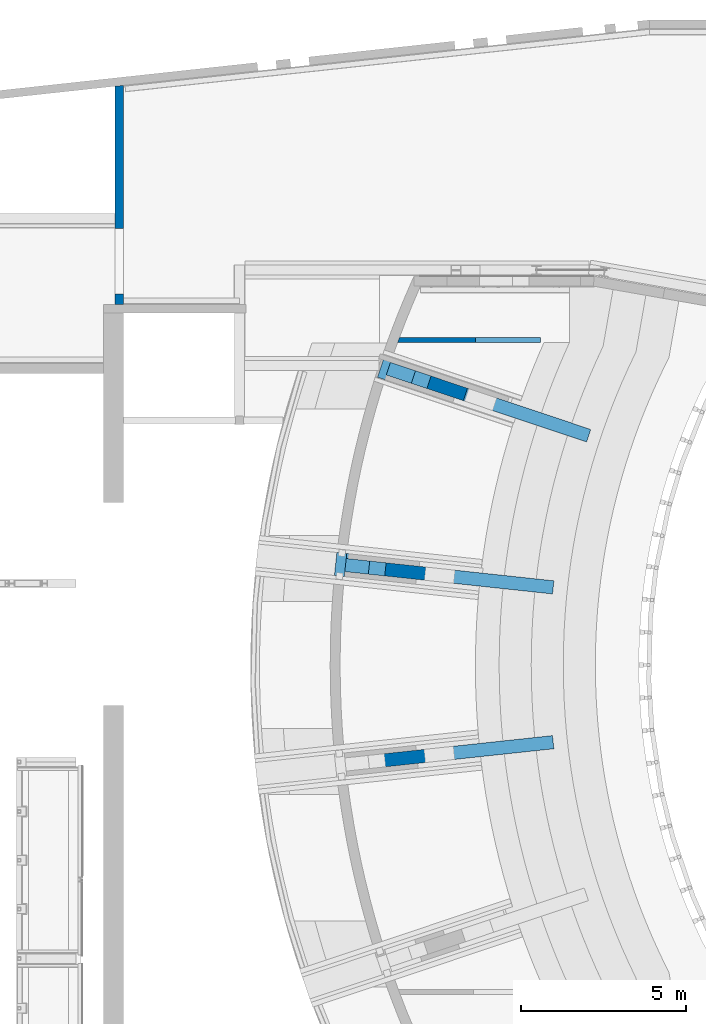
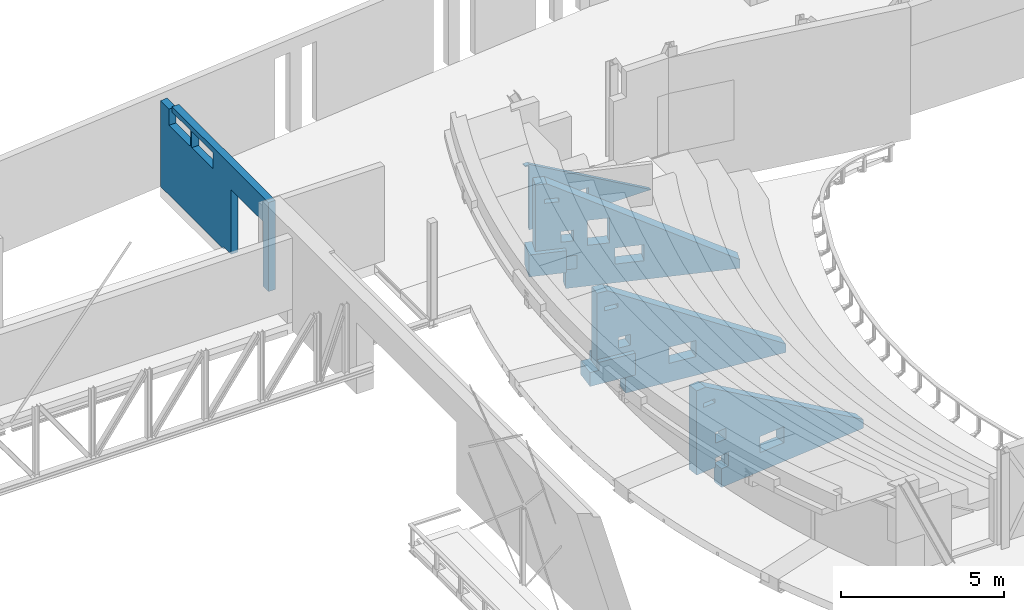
# One storey, part 67 of 68: 7 walls.
"""IFC2X3 building model written with IfcOpenShell, lengths in millimetres."""

from ifc_helpers import new_model, entity, si_unit, converted_unit, derived_unit, direction, frame, origin, place, context, subcontext, project, spatial, faceted_brep, material, layer, layer_set, type_object, element, save


model = new_model("IFC2X3")

# Units and contexts
model_context = context("Model", 3, precision=0.01, world=origin(), true_north=direction((6.12303176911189e-17, 1.0)))
body_context = subcontext(model_context, "Body", "Model", "MODEL_VIEW")
ifc_project = project(units=[si_unit("LENGTHUNIT", "METRE", prefix="MILLI"), si_unit("AREAUNIT", "SQUARE_METRE", prefix="MILLI"), si_unit("VOLUMEUNIT", "CUBIC_METRE"), converted_unit("PLANEANGLEUNIT", "DEGREE", entity("IfcRatioMeasure", 0.0174532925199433), si_unit("PLANEANGLEUNIT", "RADIAN"), dimensions=[0, 0, 0, 0, 0, 0, 0]), si_unit("MASSUNIT", "GRAM", prefix="KILO"), derived_unit("MASSDENSITYUNIT", [(si_unit("MASSUNIT", "GRAM", prefix="KILO"), 1), (si_unit("LENGTHUNIT", "METRE"), -3)]), derived_unit("MOMENTOFINERTIAUNIT", [(si_unit("LENGTHUNIT", "METRE"), 4)]), si_unit("TIMEUNIT", "SECOND"), si_unit("FREQUENCYUNIT", "HERTZ"), si_unit("THERMODYNAMICTEMPERATUREUNIT", "DEGREE_CELSIUS"), derived_unit("THERMALTRANSMITTANCEUNIT", [(si_unit("MASSUNIT", "GRAM", prefix="KILO"), 1), (si_unit("THERMODYNAMICTEMPERATUREUNIT", "KELVIN"), -1), (si_unit("TIMEUNIT", "SECOND"), -3)]), derived_unit("VOLUMETRICFLOWRATEUNIT", [(si_unit("LENGTHUNIT", "METRE"), 3), (si_unit("TIMEUNIT", "SECOND"), -1)]), si_unit("ELECTRICCURRENTUNIT", "AMPERE"), si_unit("ELECTRICVOLTAGEUNIT", "VOLT"), si_unit("POWERUNIT", "WATT"), si_unit("FORCEUNIT", "NEWTON", prefix="KILO"), si_unit("ILLUMINANCEUNIT", "LUX"), si_unit("LUMINOUSFLUXUNIT", "LUMEN"), si_unit("LUMINOUSINTENSITYUNIT", "CANDELA"), derived_unit("USERDEFINED", [(si_unit("MASSUNIT", "GRAM", prefix="KILO"), -1), (si_unit("LENGTHUNIT", "METRE"), -2), (si_unit("TIMEUNIT", "SECOND"), 3), (si_unit("LUMINOUSFLUXUNIT", "LUMEN"), 1)]), derived_unit("LINEARVELOCITYUNIT", [(si_unit("LENGTHUNIT", "METRE"), 1), (si_unit("TIMEUNIT", "SECOND"), -1)]), si_unit("PRESSUREUNIT", "PASCAL"), derived_unit("USERDEFINED", [(si_unit("LENGTHUNIT", "METRE"), -2), (si_unit("MASSUNIT", "GRAM", prefix="KILO"), 1), (si_unit("TIMEUNIT", "SECOND"), -2)]), derived_unit("LINEARFORCEUNIT", [(si_unit("MASSUNIT", "GRAM", prefix="KILO"), 1), (si_unit("LENGTHUNIT", "METRE"), 1), (si_unit("TIMEUNIT", "SECOND"), -2), (si_unit("LENGTHUNIT", "METRE"), -1)]), derived_unit("PLANARFORCEUNIT", [(si_unit("MASSUNIT", "GRAM", prefix="KILO"), 1), (si_unit("LENGTHUNIT", "METRE"), 1), (si_unit("TIMEUNIT", "SECOND"), -2), (si_unit("LENGTHUNIT", "METRE"), -2)])], contexts=[model_context])

# Site, building, storey
site_placement = place(None, origin())
site = spatial("IfcSite", under=ifc_project, at=site_placement, Name="Theater aan de Parade", CompositionType="ELEMENT")
building_placement = place(site_placement, origin())
building = spatial("IfcBuilding", under=site, at=building_placement, Name="Theater aan de Parade", CompositionType="ELEMENT")
storey_placement = place(building_placement, frame((0.0, 0.0, 8750.0)))
storey = spatial("IfcBuildingStorey", under=building, at=storey_placement, Name="02 tweede verdieping", CompositionType="ELEMENT", Elevation=8750.0)

# Walls
ifc_material_1 = material(Name="00_PBT_MAT_beton t.p.g.")
ifc_layer_1 = layer(ifc_material_1, 400.0)
ifc_layer_set_1 = layer_set([ifc_layer_1], Name="Basic Wall:28_PBT_WA_beton t.p.g._d=400_bestaand")
wall_type_1 = type_object("IfcWallType", Name="Basic Wall:28_PBT_WA_beton t.p.g._d=400_bestaand", PredefinedType="STANDARD", material=ifc_layer_set_1)
wall_1_placement = place(storey_placement, frame((45470.1252305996, 41412.4561041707, -1600.0), z_axis=(0.0, 0.0, 1.0), x_axis=(0.948323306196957, -0.317305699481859, 0.0)))
element("IfcWall", 1, at=wall_1_placement, inside=storey, type_object=wall_type_1, Name="Basic Wall:28_PBT_WA_beton t.p.g._d=400_bestaand", ObjectType="Basic Wall:28_PBT_WA_beton t.p.g._d=400_bestaand", context=body_context, shape_type="Brep", body=[
    faceted_brep([(0.0180386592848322, -200.0, 1520.0), (0.0180386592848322, -200.0, 850.0), (795.798207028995, -200.0, 1200.0), (795.798207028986, -200.0, 1750.0), (795.798207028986, -200.0, 2150.0), (291.318215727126, -200.0, 3275.0), (0.0180386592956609, -200.0, 4000.0), (795.798207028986, -200.0, 850.0), (945.798207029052, -200.0, 1200.0), (1195.79820702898, -200.0, 1750.0), (1295.79820702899, -200.0, 1200.0), (1622.48266673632, -200.0, 1520.0), (1295.79820702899, -200.0, 700.0), (2495.798207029, -200.0, 700.0), (945.79820702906, -200.0, 0.0), (945.79820702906, -200.0, 700.0), (3395.79820702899, -200.0, 700.0), (6389.68846659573, -200.0, 0.0), (6389.68846659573, -200.0, 325.979381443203), (3395.79820702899, -200.0, 1300.0), (2322.48266673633, -200.0, 2450.0), (360.967538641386, -200.0, 4000.0), (291.318215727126, -200.0, 3425.0), (741.318215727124, -200.0, 3425.0), (1622.48266673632, -200.0, 2450.0), (741.318215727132, -200.0, 3275.0), (1195.79820702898, -200.0, 2150.0), (2322.48266673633, -200.0, 1520.0), (2495.798207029, -200.0, 1300.0), (6389.68846659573, 200.0, 0.0), (3395.79820702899, 200.0, 700.0), (6389.68846659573, 200.0, 325.979381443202), (945.798207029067, 200.0, 0.0), (2495.79820702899, 200.0, 700.0), (1295.79820702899, 200.0, 700.0), (945.798207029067, 200.0, 700.0), (1622.48266673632, 200.0, 1520.0), (1295.79820702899, 200.0, 1200.0), (1195.79820702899, 200.0, 1750.0), (945.798207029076, 200.0, 1200.0), (795.798207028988, 200.0, 1750.0), (795.798207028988, 200.0, 1200.0), (0.0, 200.0, 1520.0), (0.0, 200.0, 850.0), (795.798207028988, 200.0, 850.0), (795.798207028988, 200.0, 2150.0), (291.318215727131, 200.0, 3275.0), (0.0, 200.0, 4000.0), (291.318215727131, 200.0, 3425.0), (360.967538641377, 200.0, 4000.0), (2322.48266673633, 200.0, 2450.0), (741.318215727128, 200.0, 3425.0), (3395.79820702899, 200.0, 1300.0), (2322.48266673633, 200.0, 1520.0), (1622.48266673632, 200.0, 2450.0), (1195.79820702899, 200.0, 2150.0), (741.318215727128, 200.0, 3275.0), (2495.79820702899, 200.0, 1300.0), (-0.698954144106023, -3.19274710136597e-05, 850.0), (-0.698954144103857, -3.19274796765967e-05, 4000.0), (-0.692440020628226, -17.9528807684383, 2425.0)], [[[0, 1, 2]], [[2, 3, 0]], [[0, 3, 4]], [[5, 0, 4]], [[5, 6, 0]], [[2, 1, 7]], [[8, 3, 2]], [[9, 3, 8]], [[8, 10, 9]], [[11, 9, 10]], [[11, 10, 12]], [[11, 12, 13]], [[13, 12, 14]], [[15, 14, 12]], [[13, 14, 16]], [[17, 16, 14]], [[17, 18, 16]], [[19, 16, 18]], [[19, 18, 20]], [[18, 21, 20]], [[6, 22, 21]], [[21, 23, 20]], [[21, 22, 23]], [[24, 20, 23]], [[23, 25, 24]], [[26, 25, 4]], [[25, 5, 4]], [[26, 24, 25]], [[24, 26, 11]], [[20, 27, 19]], [[28, 19, 27]], [[28, 27, 11]], [[9, 11, 26]], [[11, 13, 28]], [[6, 5, 22]], [[29, 30, 31]], [[32, 30, 29]], [[33, 30, 32]], [[32, 34, 33]], [[32, 35, 34]], [[36, 33, 34]], [[37, 36, 34]], [[38, 36, 37]], [[37, 39, 38]], [[39, 40, 38]], [[39, 41, 40]], [[40, 41, 42]], [[42, 41, 43]], [[44, 43, 41]], [[40, 42, 45]], [[42, 46, 45]], [[42, 47, 46]], [[48, 46, 47]], [[47, 49, 48]], [[31, 50, 49]], [[48, 49, 51]], [[51, 49, 50]], [[52, 50, 31]], [[52, 53, 50]], [[50, 54, 51]], [[55, 54, 36]], [[54, 55, 56]], [[54, 56, 51]], [[56, 45, 46]], [[55, 45, 56]], [[36, 38, 55]], [[33, 36, 57]], [[57, 36, 53]], [[52, 57, 53]], [[52, 31, 30]], [[17, 14, 32, 29]], [[18, 17, 29, 31]], [[21, 18, 31, 49]], [[3, 9, 38, 40]], [[4, 3, 40, 45]], [[2, 7, 44, 41]], [[26, 4, 45, 55]], [[9, 26, 55, 38]], [[15, 12, 34, 35]], [[13, 16, 30, 33]], [[8, 2, 41, 39, 37, 10]], [[12, 10, 37, 34]], [[28, 13, 33, 57]], [[19, 28, 57, 52]], [[16, 19, 52, 30]], [[7, 1, 58, 43, 44]], [[59, 60, 6]], [[60, 59, 47]], [[58, 1, 0]], [[0, 60, 58]], [[58, 60, 42]], [[6, 60, 0]], [[43, 58, 42]], [[60, 47, 42]], [[6, 21, 49, 47, 59]], [[32, 14, 15, 35]], [[25, 23, 51, 56]], [[5, 25, 56, 46]], [[22, 5, 46, 48]], [[23, 22, 48, 51]], [[27, 20, 50, 53]], [[11, 27, 53, 36]], [[24, 11, 36, 54]], [[20, 24, 54, 50]]]),
])
wall_2_placement = place(storey_placement, frame((44172.8731387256, 35472.8636907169, -1600.0), z_axis=(0.0, 0.0, 1.0), x_axis=(0.994276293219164, -0.106839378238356, 0.0)))
element("IfcWall", 2, at=wall_2_placement, inside=storey, type_object=wall_type_1, Name="Basic Wall:28_PBT_WA_beton t.p.g._d=400_bestaand", ObjectType="Basic Wall:28_PBT_WA_beton t.p.g._d=400_bestaand", context=body_context, shape_type="Brep", body=[
    faceted_brep([(0.0, -200.0, 1220.0), (0.0, -200.0, 850.0), (714.535756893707, -200.0, 1200.0), (714.535756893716, -200.0, 1750.0), (714.535756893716, -200.0, 2150.0), (250.61794045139, -200.0, 3275.0), (0.0, -200.0, 2532.80880524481), (714.535756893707, -200.0, 850.0), (1114.53575689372, -200.0, 1750.0), (1214.53575689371, -200.0, 1200.0), (2414.53575689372, -200.0, 1300.0), (2414.53575689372, -200.0, 700.0), (1214.53575689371, -200.0, 700.0), (955.067265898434, -200.0, 0.0), (955.067265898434, -200.0, 700.0), (3314.53575689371, -200.0, 700.0), (6318.68326631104, -200.0, 0.0), (6318.68326631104, -200.0, 325.979381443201), (3314.53575689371, -200.0, 1300.0), (353.476265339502, -200.0, 4000.0), (700.617940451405, -200.0, 3425.0), (250.61794045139, -200.0, 3425.0), (0.0, -200.0, 4000.0), (1114.53575689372, -200.0, 2150.0), (700.617940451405, -200.0, 3275.0), (6318.68326631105, 200.0, 325.979381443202), (6318.68326631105, 200.0, 0.0), (3314.53575689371, 200.0, 700.0), (3314.53575689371, 200.0, 1300.0), (353.476265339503, 200.0, 4000.0), (955.067265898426, 200.0, 0.0), (2414.53575689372, 200.0, 700.0), (1214.53575689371, 200.0, 700.0), (955.067265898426, 200.0, 700.0), (1214.53575689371, 200.0, 1200.0), (2414.53575689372, 200.0, 1300.0), (1114.53575689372, 200.0, 1750.0), (714.535756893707, 200.0, 1200.0), (714.535756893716, 200.0, 1750.0), (0.0672658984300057, 200.0, 1220.0), (0.0672658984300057, 200.0, 850.0), (714.535756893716, 200.0, 850.0), (714.535756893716, 200.0, 2150.0), (250.617940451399, 200.0, 3275.0), (0.0672658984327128, 200.0, 2532.80880524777), (0.0672658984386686, 200.0, 4000.0), (250.617940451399, 200.0, 3425.0), (700.617940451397, 200.0, 3425.0), (1114.53575689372, 200.0, 2150.0), (700.617940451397, 200.0, 3275.0), (-0.674340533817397, 0.000119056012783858, 850.0), (-0.674340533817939, 0.000119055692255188, 2293.12853771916), (-0.674340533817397, 0.000119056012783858, 4000.0)], [[[0, 1, 2]], [[3, 0, 2]], [[3, 4, 0]], [[0, 4, 5]], [[5, 6, 0]], [[2, 1, 7]], [[3, 2, 8]], [[8, 2, 9]], [[10, 8, 9]], [[10, 9, 11]], [[9, 12, 11]], [[12, 13, 11]], [[13, 12, 14]], [[13, 15, 11]], [[16, 15, 13]], [[15, 16, 17]], [[18, 15, 17]], [[18, 17, 19]], [[19, 20, 18]], [[21, 20, 19]], [[22, 21, 19]], [[22, 5, 21]], [[5, 22, 6]], [[20, 23, 18]], [[23, 20, 24]], [[5, 4, 24]], [[24, 4, 23]], [[23, 8, 10]], [[10, 18, 23]], [[25, 26, 27]], [[27, 28, 25]], [[25, 28, 29]], [[30, 27, 26]], [[31, 27, 30]], [[30, 32, 31]], [[32, 30, 33]], [[31, 32, 34]], [[31, 34, 35]], [[36, 35, 34]], [[37, 36, 34]], [[37, 38, 36]], [[39, 38, 37]], [[40, 39, 37]], [[40, 37, 41]], [[39, 42, 38]], [[42, 39, 43]], [[43, 39, 44]], [[43, 44, 45]], [[43, 45, 46]], [[46, 45, 29]], [[47, 46, 29]], [[47, 29, 28]], [[28, 35, 48]], [[47, 28, 48]], [[36, 48, 35]], [[47, 48, 49]], [[49, 48, 42]], [[49, 42, 43]], [[16, 13, 30, 26]], [[17, 16, 26, 25]], [[19, 17, 25, 29]], [[3, 8, 36, 38]], [[4, 3, 38, 42]], [[2, 7, 41, 37]], [[23, 4, 42, 48]], [[8, 23, 48, 36]], [[14, 12, 32, 33]], [[11, 15, 27, 31]], [[9, 2, 37, 34]], [[12, 9, 34, 32]], [[10, 11, 31, 35]], [[18, 10, 35, 28]], [[15, 18, 28, 27]], [[7, 1, 50, 40, 41]], [[44, 39, 40, 50, 51, 52, 45]], [[6, 22, 52, 51, 50, 1, 0]], [[22, 19, 29, 45, 52]], [[33, 30, 13, 14]], [[5, 24, 49, 43]], [[21, 5, 43, 46]], [[20, 21, 46, 47]], [[24, 20, 47, 49]]]),
])
wall_3_placement = place(storey_placement, frame((44171.4500941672, 29440.1494627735, -1600.0), z_axis=(0.0, 0.0, 1.0), x_axis=(0.994276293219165, 0.106839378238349, 0.0)))
element("IfcWall", 3, at=wall_3_placement, inside=storey, type_object=wall_type_1, Name="Basic Wall:28_PBT_WA_beton t.p.g._d=400_bestaand", ObjectType="Basic Wall:28_PBT_WA_beton t.p.g._d=400_bestaand", context=body_context, shape_type="Brep", body=[
    faceted_brep([(0.0, -200.0, 1220.0), (0.0, -200.0, 850.0), (706.013188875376, -200.0, 1200.0), (706.013188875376, -200.0, 1750.0), (706.013188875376, -200.0, 2150.0), (249.548766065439, -200.0, 3275.0), (0.0, -200.0, 2532.80880519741), (706.013188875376, -200.0, 850.0), (1106.01318887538, -200.0, 1750.0), (1206.01318887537, -200.0, 1200.0), (2406.01318887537, -200.0, 1300.0), (2406.01318887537, -200.0, 700.0), (1206.01318887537, -200.0, 700.0), (945.848269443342, -200.0, 0.0), (945.848269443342, -200.0, 700.0), (3306.01318887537, -200.0, 700.0), (6318.70891990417, -200.0, 0.0), (6318.70891990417, -200.0, 325.979381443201), (3306.01318887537, -200.0, 1300.0), (347.238214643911, -200.0, 4000.0), (699.548766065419, -200.0, 3425.0), (249.548766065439, -200.0, 3425.0), (0.0, -200.0, 4000.0), (1106.01318887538, -200.0, 2150.0), (699.548766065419, -200.0, 3275.0), (6318.70891990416, 200.0, 325.979381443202), (6318.70891990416, 200.0, 0.0), (3306.01318887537, 200.0, 700.0), (3306.01318887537, 200.0, 1300.0), (347.238214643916, 200.0, 4000.0), (945.848269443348, 200.0, 0.0), (2406.01318887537, 200.0, 700.0), (1206.01318887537, 200.0, 700.0), (945.848269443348, 200.0, 700.0), (1206.01318887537, 200.0, 1200.0), (2406.01318887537, 200.0, 1300.0), (1106.01318887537, 200.0, 1750.0), (706.013188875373, 200.0, 1200.0), (706.013188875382, 200.0, 1750.0), (0.118093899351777, 200.0, 1220.0), (0.118093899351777, 200.0, 850.0), (706.013188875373, 200.0, 850.0), (706.013188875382, 200.0, 2150.0), (249.548766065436, 200.0, 3275.0), (0.118093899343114, 200.0, 2532.8088052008), (0.118093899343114, 200.0, 4000.0), (249.548766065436, 200.0, 3425.0), (699.548766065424, 200.0, 3425.0), (1106.01318887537, 200.0, 2150.0), (699.548766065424, 200.0, 3275.0), (-0.64892655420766, 0.000209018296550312, 850.0), (-0.648926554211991, 0.000209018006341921, 2293.12857318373), (-0.64892655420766, 0.000209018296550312, 4000.0)], [[[0, 1, 2]], [[3, 0, 2]], [[3, 4, 0]], [[0, 4, 5]], [[5, 6, 0]], [[2, 1, 7]], [[3, 2, 8]], [[8, 2, 9]], [[10, 8, 9]], [[10, 9, 11]], [[9, 12, 11]], [[12, 13, 11]], [[13, 12, 14]], [[13, 15, 11]], [[16, 15, 13]], [[15, 16, 17]], [[18, 15, 17]], [[18, 17, 19]], [[19, 20, 18]], [[21, 20, 19]], [[22, 21, 19]], [[22, 5, 21]], [[5, 22, 6]], [[20, 23, 18]], [[23, 20, 24]], [[5, 4, 24]], [[24, 4, 23]], [[23, 8, 10]], [[10, 18, 23]], [[25, 26, 27]], [[27, 28, 25]], [[25, 28, 29]], [[30, 27, 26]], [[31, 27, 30]], [[30, 32, 31]], [[32, 30, 33]], [[31, 32, 34]], [[31, 34, 35]], [[36, 35, 34]], [[37, 36, 34]], [[37, 38, 36]], [[39, 38, 37]], [[40, 39, 37]], [[40, 37, 41]], [[39, 42, 38]], [[42, 39, 43]], [[43, 39, 44]], [[43, 44, 45]], [[43, 45, 46]], [[46, 45, 29]], [[47, 46, 29]], [[47, 29, 28]], [[28, 35, 48]], [[47, 28, 48]], [[36, 48, 35]], [[47, 48, 49]], [[49, 48, 42]], [[49, 42, 43]], [[16, 13, 30, 26]], [[17, 16, 26, 25]], [[19, 17, 25, 29]], [[8, 23, 48, 36]], [[3, 8, 36, 38]], [[4, 3, 38, 42]], [[2, 7, 41, 37]], [[23, 4, 42, 48]], [[12, 9, 34, 32]], [[14, 12, 32, 33]], [[11, 15, 27, 31]], [[9, 2, 37, 34]], [[15, 18, 28, 27]], [[10, 11, 31, 35]], [[18, 10, 35, 28]], [[7, 1, 50, 40, 41]], [[44, 39, 40, 50, 51, 52, 45]], [[6, 22, 52, 51, 50, 1, 0]], [[22, 19, 29, 45, 52]], [[33, 30, 13, 14]], [[5, 24, 49, 43]], [[21, 5, 43, 46]], [[20, 21, 46, 47]], [[24, 20, 47, 49]]]),
])
ifc_material_2 = material(Name="00_PBT_MAT_beton t.p.g._C30/37")
ifc_layer_2 = layer(ifc_material_2, 250.0)
ifc_layer_set_2 = layer_set([ifc_layer_2], Name="Basic Wall:28_PBT_WA_beton t.p.g._d=250_C30/37")
wall_type_2 = type_object("IfcWallType", Name="Basic Wall:28_PBT_WA_beton t.p.g._d=250_C30/37", PredefinedType="STANDARD", material=ifc_layer_set_2)
wall_4_placement = place(storey_placement, frame((37328.8581300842, 49983.3096390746, -80.0), z_axis=(0.0, 0.0, 1.0), x_axis=(0.0, -1.0, 0.0)))
element("IfcWall", 4, at=wall_4_placement, inside=storey, type_object=wall_type_2, Name="Basic Wall:28_PBT_WA_beton t.p.g._d=250_C30/37", ObjectType="Basic Wall:28_PBT_WA_beton t.p.g._d=250_C30/37", context=body_context, shape_type="Brep", body=[
    faceted_brep([(6311.41511417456, -125.0, 2500.0), (6311.41511417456, -125.0, 80.0), (6633.30963907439, -125.0, 80.0), (6633.30963907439, -125.0, 3410.0), (721.311648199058, -125.0, 3410.0), (721.311648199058, -125.0, 3210.0), (1846.72254543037, -125.0, 3210.0), (1846.72254543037, -125.0, 2610.0), (546.722545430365, -125.0, 2610.0), (546.722545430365, -125.0, 3210.0), (77.4204405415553, -125.0, 3210.0), (27.1269532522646, -125.0, 3210.0), (27.1269532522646, -125.0, 0.0), (3883.30963907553, -125.0, 0.0), (3883.30963907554, -125.0, 80.0), (4336.41511417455, -125.0, 80.0), (4336.41511417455, -125.0, 2500.0), (3231.44652187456, -125.0, 3210.0), (3231.44652187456, -125.0, 2610.0), (1931.44652187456, -125.0, 2610.0), (1931.44652187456, -125.0, 3210.0), (6311.41511417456, 125.0, 80.0), (6311.41511417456, 125.0, 2500.0), (4336.41511417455, 125.0, 2500.0), (4336.41511417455, 125.0, 80.0), (3883.30963907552, 125.0, 80.0), (3883.30963907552, 125.0, 0.0), (0.0, 125.0, 0.0), (0.0, 125.0, 3210.0), (546.722545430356, 125.0, 3210.0), (546.722545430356, 125.0, 2610.0), (1846.72254543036, 125.0, 2610.0), (1846.72254543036, 125.0, 3210.0), (721.31164819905, 125.0, 3210.0), (721.31164819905, 125.0, 3385.0), (721.31164819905, 125.0, 3410.0), (6633.30963907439, 125.0, 3410.0), (6633.30963907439, 125.0, 80.0), (3231.44652187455, 125.0, 2610.0), (3231.44652187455, 125.0, 3210.0), (1931.44652187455, 125.0, 3210.0), (1931.44652187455, 125.0, 2610.0)], [[[0, 1, 2, 3, 4, 5, 6, 7, 8, 9, 10, 11, 12, 13, 14, 15, 16], [17, 18, 19, 20]], [[21, 22, 23, 24, 25, 26, 27, 28, 29, 30, 31, 32, 33, 34, 35, 36, 37], [38, 39, 40, 41]], [[12, 27, 26, 13]], [[36, 3, 2, 37]], [[0, 22, 21, 1]], [[23, 16, 15, 24]], [[22, 0, 16, 23]], [[27, 12, 11, 28]], [[11, 10, 9, 29, 28]], [[33, 5, 4, 35, 34]], [[4, 3, 36, 35]], [[38, 18, 17, 39]], [[18, 38, 41, 19]], [[19, 41, 40, 20]], [[39, 17, 20, 40]], [[31, 7, 6, 32]], [[7, 31, 30, 8]], [[8, 30, 29, 9]], [[32, 6, 5, 33]], [[2, 1, 21, 37]], [[25, 14, 13, 26]], [[14, 25, 24, 15]]]),
])
ifc_layer_3 = layer(ifc_material_2, 150.0)
ifc_layer_set_3 = layer_set([ifc_layer_3], Name="Basic Wall:28_PBT_WA_beton t.p.g._d=150_C30/37")
wall_type_3 = type_object("IfcWallType", Name="Basic Wall:28_PBT_WA_beton t.p.g._d=150_C30/37", PredefinedType="STANDARD", material=ifc_layer_set_3)
wall_5_placement = place(storey_placement, frame((45617.3129170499, 42285.0, 0.0)))
element("IfcWall", 5, at=wall_5_placement, inside=storey, type_object=wall_type_3, Name="Basic Wall:28_PBT_WA_beton t.p.g._d=150_C30/37", ObjectType="Basic Wall:28_PBT_WA_beton t.p.g._d=150_C30/37", context=body_context, shape_type="Brep", body=[
    faceted_brep([(4449.39705630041, -75.0, 0.0), (2236.13839449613, -75.0, 0.0), (2236.13839449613, 75.0, 0.0), (4449.39705630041, 75.0, 0.0), (4454.92942606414, 75.0, 0.0), (4454.92942606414, -75.0, 0.0), (1536.13839449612, -75.0, 0.0), (132.219339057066, -75.0, 0.0), (159.966316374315, 0.0394406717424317, 0.0), (187.925696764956, 75.0, 0.0), (1536.13839449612, 75.0, 0.0), (736.138394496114, -75.0, 150.0), (736.138394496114, -75.0, 550.0), (132.219339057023, -75.0, 733.595597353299), (1136.13839449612, -75.0, 150.0), (1136.13839449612, -75.0, 550.0), (1536.13839449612, -75.0, 850.0), (1121.7172737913, -75.0, 1895.9302652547), (2236.13839449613, -75.0, 850.0), (132.219339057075, -75.0, 2400.0), (159.580074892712, -75.0, 2443.19367105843), (0.0, -75.0, 2443.19367105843), (0.0, -75.0, 2400.0), (132.219339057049, -75.0, 1467.1911947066), (2236.13839449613, 75.0, 850.0), (1121.71727379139, 75.0, 1895.93026525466), (1536.13839449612, 75.0, 850.0), (1136.13839449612, 75.0, 550.0), (1136.13839449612, 75.0, 150.0), (736.138394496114, 75.0, 150.0), (736.138394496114, 75.0, 550.0), (187.925696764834, 75.0, 733.59559735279), (187.925696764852, 75.0, 1200.0), (187.925696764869, 75.0, 1666.40440264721), (187.925696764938, 75.0, 2400.0), (289.600362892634, 75.0, 2369.2381627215), (235.518347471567, 75.0, 2400.0), (159.580074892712, 75.0, 2443.19367105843), (0.0, 75.0, 2400.0), (0.0, 75.0, 2443.19367105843), (159.967924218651, 0.0437700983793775, 2400.0), (160.151919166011, 0.539197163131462, 1545.11874497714), (159.966316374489, 0.0394406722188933, 966.797798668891)], [[[0, 1, 2, 3, 4, 5]], [[6, 7, 8, 9, 10]], [[7, 11, 12]], [[11, 7, 6]], [[12, 13, 7]], [[6, 14, 11]], [[14, 6, 15]], [[15, 6, 16]], [[15, 16, 17]], [[16, 18, 17]], [[5, 17, 18]], [[18, 0, 5]], [[1, 0, 18]], [[15, 17, 12]], [[19, 12, 17]], [[20, 19, 17]], [[19, 20, 21]], [[21, 22, 19]], [[12, 19, 23]], [[12, 23, 13]], [[24, 4, 3]], [[24, 3, 2]], [[24, 25, 4]], [[24, 26, 25]], [[27, 25, 26]], [[27, 26, 10]], [[28, 27, 10]], [[10, 29, 28]], [[29, 10, 9]], [[30, 29, 9]], [[30, 9, 31]], [[30, 31, 32]], [[30, 32, 33]], [[30, 33, 34]], [[34, 35, 30]], [[36, 35, 34]], [[36, 34, 37]], [[38, 37, 34]], [[37, 38, 39]], [[30, 35, 25]], [[25, 27, 30]], [[21, 20, 37, 39]], [[22, 21, 39, 38]], [[5, 4, 25, 35, 36, 37, 20, 17]], [[40, 19, 22, 38, 34]], [[40, 34, 33]], [[41, 19, 40]], [[42, 32, 31, 9, 8]], [[32, 42, 41]], [[41, 23, 19]], [[8, 7, 13, 23, 42]], [[41, 42, 23]], [[33, 41, 40]], [[32, 41, 33]], [[26, 16, 6, 10]], [[24, 2, 1, 18]], [[26, 24, 18, 16]], [[14, 15, 27, 28]], [[11, 14, 28, 29]], [[12, 11, 29, 30]], [[15, 12, 30, 27]]]),
])
ifc_layer_4 = layer(ifc_material_2, 700.0)
ifc_layer_set_4 = layer_set([ifc_layer_4], Name="Basic Wall:28_PBT_WA_beton t.p.g._d=700_C30/37")
wall_type_4 = type_object("IfcWallType", Name="Basic Wall:28_PBT_WA_beton t.p.g._d=700_C30/37", PredefinedType="STANDARD", material=ifc_layer_set_4)
wall_6_placement = place(storey_placement, frame((46367.0477132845, 41112.3489425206, -900.0), z_axis=(0.0, 0.0, 1.0), x_axis=(-0.948323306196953, 0.317305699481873, 0.0)))
element("IfcWall", 6, at=wall_6_placement, inside=storey, type_object=wall_type_4, Name="Basic Wall:28_PBT_WA_beton t.p.g._d=700_C30/37", ObjectType="Basic Wall:28_PBT_WA_beton t.p.g._d=700_C30/37", context=body_context, shape_type="Brep", body=[
    faceted_brep([(0.0, -350.0, 820.0), (0.0, -350.0, 0.0), (1175.46724078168, -350.0, 0.0), (1175.46724078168, -350.0, 820.0), (1175.46724078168, 350.0, 820.0), (1175.46724078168, 350.0, 0.0), (0.0, 350.0, 0.0), (0.0, 350.0, 820.0), (945.780168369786, 350.0, 820.0), (0.0, -200.0, 0.0), (-350.0, -200.0, 0.0), (-350.0, 200.0, 0.0), (0.0, 200.0, 0.0), (0.0, 200.0, 820.0), (945.780168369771, 200.0, 820.0), (946.497161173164, 3.19274883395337e-05, 820.0), (945.798207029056, -200.0, 820.0), (0.0, -200.0, 820.0), (-350.0, -200.0, 500.0), (-350.0, 200.0, 500.0), (0.0, 200.0, 500.0), (0.0, -200.0, 500.0), (150.0, 200.0, 500.0), (150.0, 200.0, 150.0), (945.780168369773, 200.0, 150.0), (945.798207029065, -200.0, 150.0), (150.0, -200.0, 150.0), (150.0, -200.0, 500.0), (946.497161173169, 3.19274796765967e-05, 150.0)], [[[0, 1, 2, 3]], [[4, 5, 6, 7, 8]], [[2, 1, 9, 10, 11, 12, 6, 5]], [[3, 2, 5, 4]], [[3, 4, 8, 7, 13, 14, 15, 16, 17, 0]], [[10, 18, 19, 11]], [[20, 12, 11, 19]], [[10, 9, 21, 18]], [[7, 6, 12, 20, 13]], [[21, 9, 1, 0, 17]], [[22, 23, 24, 14, 13, 20]], [[21, 17, 16, 25, 26, 27]], [[21, 27, 22, 20, 19, 18]], [[28, 24, 23, 26, 25]], [[26, 23, 22, 27]], [[28, 15, 14, 24]], [[25, 16, 15, 28]]]),
])
wall_7_placement = place(storey_placement, frame((45380.457249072, 35343.1034456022, -900.0), z_axis=(0.0, 0.0, 1.0), x_axis=(-0.994276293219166, 0.10683937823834, 0.0)))
element("IfcWall", 7, at=wall_7_placement, inside=storey, type_object=wall_type_4, Name="Basic Wall:28_PBT_WA_beton t.p.g._d=700_C30/37", ObjectType="Basic Wall:28_PBT_WA_beton t.p.g._d=700_C30/37", context=body_context, shape_type="Brep", body=[
    faceted_brep([(0.0, 200.0, 820.0), (1213.82532376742, 200.0, 820.0), (1213.82532376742, 350.0, 820.0), (0.0, 350.0, 820.0), (1163.91781644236, -350.0, 820.0), (1213.82532376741, -350.0, 820.0), (1213.82532376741, -200.0, 820.0), (1163.91781644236, -200.0, 820.0), (0.0, -200.0, 820.0), (0.0, -350.0, 820.0), (1213.82532376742, 200.0, 520.0), (1213.82532376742, 350.0, 520.0), (1213.82532376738, -350.0, 520.0), (1213.82532376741, -200.0, 520.0), (0.0, -350.0, 0.0), (259.468490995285, -350.0, 0.0), (1515.21010164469, -350.0, 0.0), (1515.2101016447, -350.0, 345.0), (1515.21010164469, -350.0, 520.0), (0.0, -350.0, 520.0), (1515.2101016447, 350.0, 520.0), (1515.2101016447, 350.0, 345.0), (1515.2101016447, 350.0, 0.0), (259.468490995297, 350.0, 0.0), (0.0, 350.0, 0.0), (0.0, 350.0, 520.0), (0.0, -200.0, 0.0), (0.0, 200.0, 0.0), (1214.53575689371, 200.0, 520.0), (0.0, 200.0, 500.0), (500.0, 200.0, 500.0), (500.0, 200.0, 150.0), (1214.53575689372, 200.0, 150.0), (1214.4684909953, -200.0, 150.0), (500.0, -200.0, 150.0), (500.0, -200.0, 500.0), (0.0, -200.0, 500.0), (1214.4684909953, -200.0, 520.0), (1215.21009742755, -0.000119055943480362, 150.0), (1215.21009742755, -0.00011905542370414, 520.0)], [[[0, 1, 2, 3]], [[4, 5, 6, 7, 8, 9]], [[1, 10, 11, 2]], [[5, 12, 13, 6]], [[14, 15, 16, 17, 18, 12, 5, 4, 9, 19]], [[11, 20, 21, 22, 23, 24, 25, 3, 2]], [[14, 26, 27, 24, 23, 22, 16, 15]], [[17, 16, 22, 21, 20, 18]], [[28, 10, 1, 0, 29, 30, 31, 32]], [[33, 34, 35, 36, 8, 7, 6, 13, 37]], [[36, 35, 30, 29]], [[38, 32, 31, 34, 33]], [[35, 34, 31, 30]], [[38, 39, 28, 32]], [[33, 37, 39, 38]], [[28, 39, 37, 13, 12, 18, 20, 11, 10]], [[9, 8, 36, 29, 0, 3, 25, 24, 27, 26, 14, 19]]]),
])

save(model, "model.ifc")
